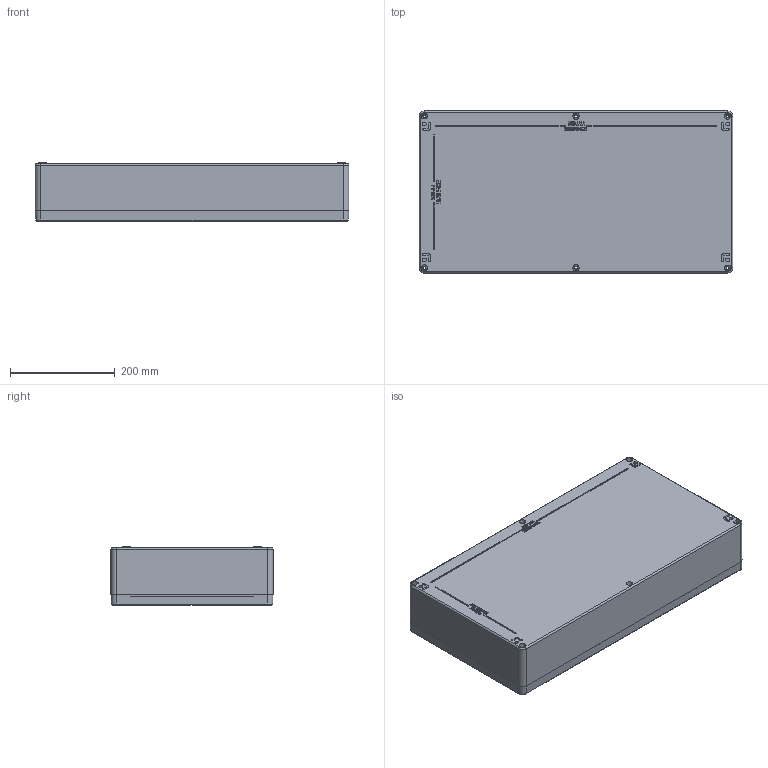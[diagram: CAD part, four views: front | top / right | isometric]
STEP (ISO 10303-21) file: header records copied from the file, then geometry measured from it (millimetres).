
FILE_DESCRIPTION (( 'STEP AP203' ), '1' );
FILE_NAME ('ALU ASSY 600310110.STEP', '2024-08-27T09:55:18', ( '' ), ( '' ), 'SwSTEP 2.0', 'SolidWorks 2018', '' );
FILE_SCHEMA (( 'CONFIG_CONTROL_DESIGN' ));
Length unit declared in the file: millimetre
Products named in the file (3): ALU ASSY 600310110; ALU LID 600310110; ALU BASE 600310110
Assembly tree (2 placements, depth 2):
  ALU ASSY 600310110
    ALU BASE 600310110
    ALU LID 600310110
Bounding box: 600 x 310 x 111 mm (x, y, z)
Volume: 3391719.4 mm3; surface area: 1160312.8 mm2
Topology: 2 solids, 2 shells, 1031 faces, 2596 edges, 1660 vertices
Faces by surface type: plane 434, cylinder 191, bspline 189, cone 139, torus 78
Entity records: 41758 total; most frequent: CARTESIAN_POINT 17517, ORIENTED_EDGE 5156, DIRECTION 4609, EDGE_CURVE 2578, VERTEX_POINT 1660, AXIS2_PLACEMENT_3D 1588, VECTOR 1433, LINE 1433
